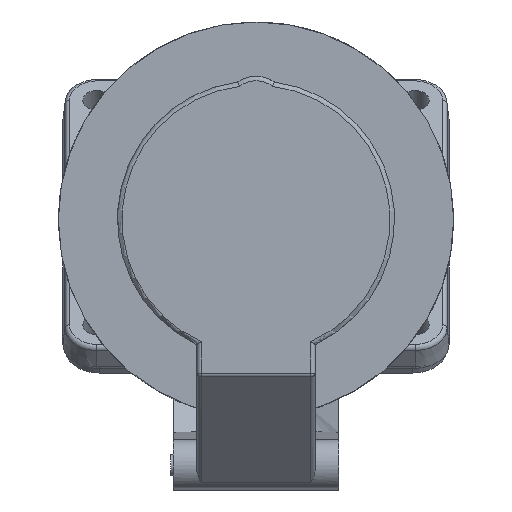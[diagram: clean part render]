
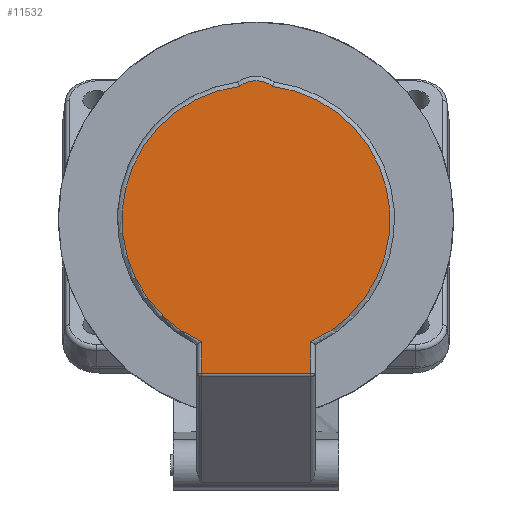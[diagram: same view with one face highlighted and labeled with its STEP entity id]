
A CAD part, top view. The second image highlights one B-rep face of the part: STEP entity #11532.
In plain terms, the highlighted planar face has unit normal (0, 0, 1).
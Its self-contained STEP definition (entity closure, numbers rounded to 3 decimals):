
#2836=CARTESIAN_POINT('',(0.,0.,108.7));
#2837=DIRECTION('',(0.,0.,1.));
#2838=DIRECTION('',(-0.123,0.992,0.));
#2839=AXIS2_PLACEMENT_3D('',#2836,#2837,#2838);
#2878=CARTESIAN_POINT('',(0.,24.5,108.7));
#2879=DIRECTION('',(0.,0.,1.));
#2880=DIRECTION('',(0.605,0.796,0.));
#2881=AXIS2_PLACEMENT_3D('',#2878,#2879,#2880);
#2901=CARTESIAN_POINT('',(0.,0.,108.7));
#2902=DIRECTION('',(0.,0.,1.));
#2903=DIRECTION('',(0.408,-0.913,0.));
#2904=AXIS2_PLACEMENT_3D('',#2901,#2902,#2903);
#2945=DIRECTION('',(0.,-1.,0.));
#2946=VECTOR('',#2945,6.937);
#2947=CARTESIAN_POINT('',(12.05,-26.927,108.7));
#2948=LINE('842',#2947,#2946);
#2973=DIRECTION('',(1.,0.,0.));
#2974=VECTOR('',#2973,24.1);
#2975=CARTESIAN_POINT('',(-12.05,-33.864,108.7));
#2976=LINE('849',#2975,#2974);
#3002=DIRECTION('',(0.,1.,0.));
#3003=VECTOR('',#3002,6.937);
#3004=CARTESIAN_POINT('',(-12.05,-33.864,108.7));
#3005=LINE('835',#3004,#3003);
#6644=CARTESIAN_POINT('',(-3.632,29.276,108.7));
#6645=CARTESIAN_POINT('',(-12.05,-26.927,108.7));
#6646=VERTEX_POINT('',#6644);
#6647=VERTEX_POINT('',#6645);
#6654=CARTESIAN_POINT('',(-12.05,-33.864,108.7));
#6655=VERTEX_POINT('',#6654);
#6658=CARTESIAN_POINT('',(3.632,29.276,108.7));
#6659=VERTEX_POINT('',#6658);
#6662=CARTESIAN_POINT('',(12.05,-26.927,108.7));
#6663=VERTEX_POINT('',#6662);
#6668=CARTESIAN_POINT('',(12.05,-33.864,108.7));
#6669=VERTEX_POINT('',#6668);
#11514=CARTESIAN_POINT('',(0.,0.,108.7));
#11515=DIRECTION('',(0.,0.,1.));
#11516=DIRECTION('',(-1.,0.,0.));
#11517=AXIS2_PLACEMENT_3D('',#11514,#11515,#11516);
#11518=PLANE('237',#11517);
#11519=ORIENTED_EDGE('832',*,*,#11492,.F.);
#11521=ORIENTED_EDGE('837',*,*,#11520,.F.);
#11523=ORIENTED_EDGE('839',*,*,#11522,.F.);
#11525=ORIENTED_EDGE('842',*,*,#11524,.T.);
#11527=ORIENTED_EDGE('849',*,*,#11526,.F.);
#11529=ORIENTED_EDGE('835',*,*,#11528,.T.);
#11530=EDGE_LOOP('237',(#11519,#11521,#11523,#11525,#11527,#11529));
#11531=FACE_OUTER_BOUND('237',#11530,.F.);
#2840=CIRCLE('832',#2839,29.5);
#2882=CIRCLE('837',#2881,6.);
#2905=CIRCLE('839',#2904,29.5);
#11492=EDGE_CURVE('832',#6646,#6647,#2840,.T.);
#11520=EDGE_CURVE('837',#6659,#6646,#2882,.T.);
#11522=EDGE_CURVE('839',#6663,#6659,#2905,.T.);
#11524=EDGE_CURVE('842',#6663,#6669,#2948,.T.);
#11526=EDGE_CURVE('849',#6655,#6669,#2976,.T.);
#11528=EDGE_CURVE('835',#6655,#6647,#3005,.T.);
#11532=ADVANCED_FACE('237',(#11531),#11518,.T.);
